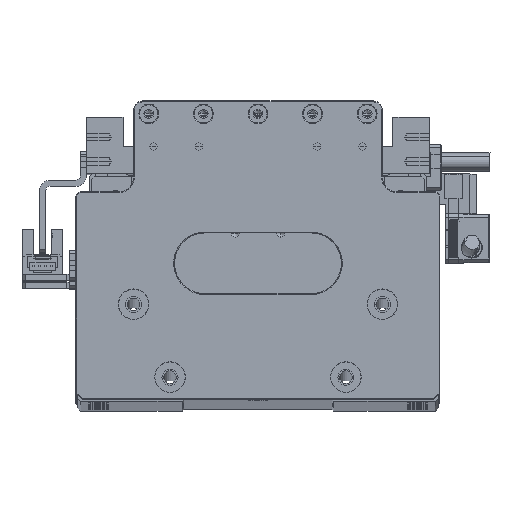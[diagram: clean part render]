
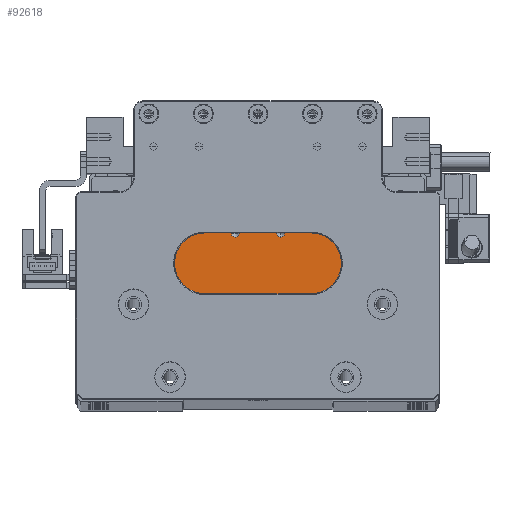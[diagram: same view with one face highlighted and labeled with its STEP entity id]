
A CAD part, top view. The second image highlights one B-rep face of the part: STEP entity #92618.
In plain terms, the highlighted planar face has unit normal (0, 0, 1).
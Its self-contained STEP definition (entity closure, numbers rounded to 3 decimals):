
#114 = AXIS2_PLACEMENT_3D ( 'NONE', #7723, #77902, #17860 ) ;
#196 = CARTESIAN_POINT ( 'NONE',  ( 13.868, -9.223, 375. ) ) ;
#675 = ORIENTED_EDGE ( 'NONE', *, *, #43629, .T. ) ;
#2541 = CARTESIAN_POINT ( 'NONE',  ( -23.132, -9.223, 375. ) ) ;
#2717 = EDGE_CURVE ( 'NONE', #23293, #100147, #62971, .T. ) ;
#5586 = EDGE_CURVE ( 'NONE', #87151, #6235, #6209, .T. ) ;
#6209 = CIRCLE ( 'NONE', #37401, 1.25 ) ;
#6235 = VERTEX_POINT ( 'NONE', #123009 ) ;
#7270 = DIRECTION ( 'NONE',  ( 1., 0., 0. ) ) ;
#7723 = CARTESIAN_POINT ( 'NONE',  ( -12.132, -17.023, 375. ) ) ;
#9103 = DIRECTION ( 'NONE',  ( -1., 0., 0. ) ) ;
#11318 = CARTESIAN_POINT ( 'NONE',  ( 25.168, -49.223, 375. ) ) ;
#11508 = LINE ( 'NONE', #113390, #85290 ) ;
#11605 = CARTESIAN_POINT ( 'NONE',  ( 13.868, -17.023, 375. ) ) ;
#11624 = CARTESIAN_POINT ( 'NONE',  ( -4.632, -9.223, 375. ) ) ;
#13008 = CARTESIAN_POINT ( 'NONE',  ( -23.132, -9.023, 375. ) ) ;
#13908 = EDGE_CURVE ( 'NONE', #65901, #45380, #73872, .T. ) ;
#14135 = EDGE_CURVE ( 'NONE', #45380, #23293, #125734, .T. ) ;
#15920 = ORIENTED_EDGE ( 'NONE', *, *, #67455, .T. ) ;
#16147 = DIRECTION ( 'NONE',  ( 0., 0., -1. ) ) ;
#17860 = DIRECTION ( 'NONE',  ( 1., 0., 0. ) ) ;
#21249 = EDGE_CURVE ( 'NONE', #52834, #81641, #25209, .T. ) ;
#21706 = CARTESIAN_POINT ( 'NONE',  ( 2.868, -17.023, 375. ) ) ;
#23293 = VERTEX_POINT ( 'NONE', #11318 ) ;
#23698 = EDGE_CURVE ( 'NONE', #6235, #87151, #29635, .T. ) ;
#24085 = ORIENTED_EDGE ( 'NONE', *, *, #70043, .T. ) ;
#24157 = DIRECTION ( 'NONE',  ( 1., 0., 0. ) ) ;
#25209 = LINE ( 'NONE', #13008, #78594 ) ;
#25884 = LINE ( 'NONE', #85500, #52549 ) ;
#27818 = ORIENTED_EDGE ( 'NONE', *, *, #107566, .T. ) ;
#29635 = CIRCLE ( 'NONE', #114, 1.25 ) ;
#30368 = DIRECTION ( 'NONE',  ( 0., -1., 0. ) ) ;
#31812 = DIRECTION ( 'NONE',  ( 1., 0., 0. ) ) ;
#33214 = CARTESIAN_POINT ( 'NONE',  ( 25.168, -17.023, 375. ) ) ;
#36151 = CARTESIAN_POINT ( 'NONE',  ( -13.382, -17.023, 375. ) ) ;
#37401 = AXIS2_PLACEMENT_3D ( 'NONE', #76226, #16147, #86326 ) ;
#39378 = CARTESIAN_POINT ( 'NONE',  ( 1.618, -17.023, 375. ) ) ;
#39461 = VECTOR ( 'NONE', #45774, 1000. ) ;
#42115 = VECTOR ( 'NONE', #9103, 1000. ) ;
#43629 = EDGE_CURVE ( 'NONE', #80057, #129656, #93830, .T. ) ;
#43651 = EDGE_CURVE ( 'NONE', #72034, #52834, #70248, .T. ) ;
#45380 = VERTEX_POINT ( 'NONE', #124668 ) ;
#45774 = DIRECTION ( 'NONE',  ( 0., 1., 0. ) ) ;
#48341 = ORIENTED_EDGE ( 'NONE', *, *, #21249, .T. ) ;
#52514 = AXIS2_PLACEMENT_3D ( 'NONE', #106855, #56762, #127083 ) ;
#52549 = VECTOR ( 'NONE', #105706, 1000. ) ;
#52834 = VERTEX_POINT ( 'NONE', #2541 ) ;
#53596 = CARTESIAN_POINT ( 'NONE',  ( -23.132, -17.023, 375. ) ) ;
#54437 = ORIENTED_EDGE ( 'NONE', *, *, #14135, .T. ) ;
#54503 = ORIENTED_EDGE ( 'NONE', *, *, #5586, .T. ) ;
#56762 = DIRECTION ( 'NONE',  ( 0., 0., 1. ) ) ;
#57057 = FACE_BOUND ( 'NONE', #106180, .T. ) ;
#57069 = ORIENTED_EDGE ( 'NONE', *, *, #23698, .T. ) ;
#59618 = EDGE_CURVE ( 'NONE', #100147, #100703, #92401, .T. ) ;
#60174 = CARTESIAN_POINT ( 'NONE',  ( -34.432, -9.023, 375. ) ) ;
#62971 = LINE ( 'NONE', #105930, #39461 ) ;
#63922 = VECTOR ( 'NONE', #122270, 1000. ) ;
#65901 = VERTEX_POINT ( 'NONE', #84431 ) ;
#67200 = EDGE_LOOP ( 'NONE', ( #57069, #54503 ) ) ;
#67327 = DIRECTION ( 'NONE',  ( 0., 0., -1. ) ) ;
#67455 = EDGE_CURVE ( 'NONE', #100703, #72034, #25884, .T. ) ;
#69173 = CARTESIAN_POINT ( 'NONE',  ( -4.632, -17.023, 375. ) ) ;
#70043 = EDGE_CURVE ( 'NONE', #129656, #80057, #118019, .T. ) ;
#70248 = LINE ( 'NONE', #11624, #63922 ) ;
#72034 = VERTEX_POINT ( 'NONE', #196 ) ;
#73872 = LINE ( 'NONE', #60174, #97467 ) ;
#76001 = AXIS2_PLACEMENT_3D ( 'NONE', #127591, #67327, #7270 ) ;
#76226 = CARTESIAN_POINT ( 'NONE',  ( -12.132, -17.023, 375. ) ) ;
#77207 = ORIENTED_EDGE ( 'NONE', *, *, #2717, .T. ) ;
#77902 = DIRECTION ( 'NONE',  ( 0., 0., -1. ) ) ;
#78594 = VECTOR ( 'NONE', #113088, 1000. ) ;
#80057 = VERTEX_POINT ( 'NONE', #39378 ) ;
#81641 = VERTEX_POINT ( 'NONE', #53596 ) ;
#83801 = FACE_OUTER_BOUND ( 'NONE', #87327, .T. ) ;
#84270 = CARTESIAN_POINT ( 'NONE',  ( -34.632, -49.223, 375. ) ) ;
#84431 = CARTESIAN_POINT ( 'NONE',  ( -34.432, -17.023, 375. ) ) ;
#85290 = VECTOR ( 'NONE', #123477, 1000. ) ;
#85500 = CARTESIAN_POINT ( 'NONE',  ( 13.868, -9.023, 375. ) ) ;
#86326 = DIRECTION ( 'NONE',  ( 1., 0., 0. ) ) ;
#87151 = VERTEX_POINT ( 'NONE', #36151 ) ;
#87327 = EDGE_LOOP ( 'NONE', ( #98879, #48341, #27818, #111290, #54437, #77207, #127863, #15920 ) ) ;
#89308 = CARTESIAN_POINT ( 'NONE',  ( 4.118, -17.023, 375. ) ) ;
#91945 = DIRECTION ( 'NONE',  ( 0., 0., -1. ) ) ;
#92401 = LINE ( 'NONE', #69173, #42115 ) ;
#92618 = ADVANCED_FACE ( 'NONE', ( #83801, #57057, #110556 ), #96744, .T. ) ;
#92714 = AXIS2_PLACEMENT_3D ( 'NONE', #21706, #91945, #31812 ) ;
#93830 = CIRCLE ( 'NONE', #92714, 1.25 ) ;
#96744 = PLANE ( 'NONE',  #52514 ) ;
#97467 = VECTOR ( 'NONE', #30368, 1000. ) ;
#98879 = ORIENTED_EDGE ( 'NONE', *, *, #43651, .T. ) ;
#98992 = VECTOR ( 'NONE', #24157, 1000. ) ;
#100147 = VERTEX_POINT ( 'NONE', #33214 ) ;
#100703 = VERTEX_POINT ( 'NONE', #11605 ) ;
#105706 = DIRECTION ( 'NONE',  ( 0., 1., 0. ) ) ;
#105930 = CARTESIAN_POINT ( 'NONE',  ( 25.168, -9.023, 375. ) ) ;
#106180 = EDGE_LOOP ( 'NONE', ( #24085, #675 ) ) ;
#106855 = CARTESIAN_POINT ( 'NONE',  ( -4.632, -9.023, 375. ) ) ;
#107566 = EDGE_CURVE ( 'NONE', #81641, #65901, #11508, .T. ) ;
#110556 = FACE_BOUND ( 'NONE', #67200, .T. ) ;
#111290 = ORIENTED_EDGE ( 'NONE', *, *, #13908, .T. ) ;
#113088 = DIRECTION ( 'NONE',  ( 0., -1., 0. ) ) ;
#113390 = CARTESIAN_POINT ( 'NONE',  ( -4.632, -17.023, 375. ) ) ;
#118019 = CIRCLE ( 'NONE', #76001, 1.25 ) ;
#122270 = DIRECTION ( 'NONE',  ( -1., 0., 0. ) ) ;
#123009 = CARTESIAN_POINT ( 'NONE',  ( -10.882, -17.023, 375. ) ) ;
#123477 = DIRECTION ( 'NONE',  ( -1., 0., 0. ) ) ;
#124668 = CARTESIAN_POINT ( 'NONE',  ( -34.432, -49.223, 375. ) ) ;
#125734 = LINE ( 'NONE', #84270, #98992 ) ;
#127083 = DIRECTION ( 'NONE',  ( 1., 0., 0. ) ) ;
#127591 = CARTESIAN_POINT ( 'NONE',  ( 2.868, -17.023, 375. ) ) ;
#127863 = ORIENTED_EDGE ( 'NONE', *, *, #59618, .T. ) ;
#129656 = VERTEX_POINT ( 'NONE', #89308 ) ;
